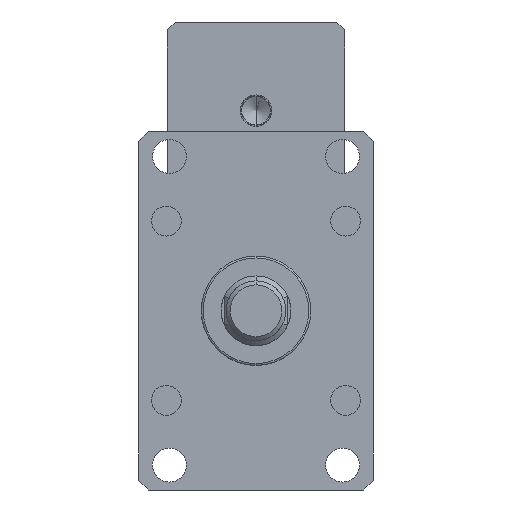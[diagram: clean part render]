
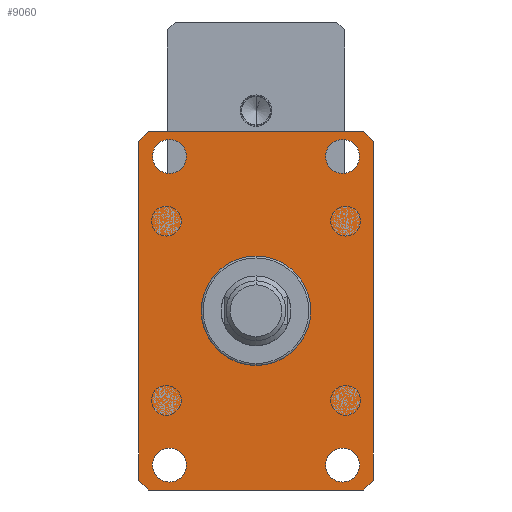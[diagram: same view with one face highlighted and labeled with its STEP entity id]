
A CAD part, front view. The second image highlights one B-rep face of the part: STEP entity #9060.
In plain terms, the highlighted planar face has unit normal (0, -1, 0).
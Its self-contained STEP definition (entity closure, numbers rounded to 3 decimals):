
#57 = CIRCLE ( 'NONE', #11998, 8.5 ) ;
#65 = ORIENTED_EDGE ( 'NONE', *, *, #6126, .T. ) ;
#323 = VERTEX_POINT ( 'NONE', #8324 ) ;
#350 = DIRECTION ( 'NONE',  ( 0., 0., -1. ) ) ;
#382 = CIRCLE ( 'NONE', #6644, 8.5 ) ;
#449 = VECTOR ( 'NONE', #11582, 1000. ) ;
#500 = CARTESIAN_POINT ( 'NONE',  ( 43.5, -55., -86. ) ) ;
#608 = VERTEX_POINT ( 'NONE', #700 ) ;
#700 = CARTESIAN_POINT ( 'NONE',  ( 43.5, -55., 69. ) ) ;
#716 = AXIS2_PLACEMENT_3D ( 'NONE', #8202, #2393, #9166 ) ;
#1003 = CIRCLE ( 'NONE', #1928, 8.5 ) ;
#1103 = ORIENTED_EDGE ( 'NONE', *, *, #5974, .F. ) ;
#1171 = VERTEX_POINT ( 'NONE', #12571 ) ;
#1281 = FACE_BOUND ( 'NONE', #2481, .T. ) ;
#1414 = VERTEX_POINT ( 'NONE', #11859 ) ;
#1847 = LINE ( 'NONE', #3904, #4104 ) ;
#1865 = CARTESIAN_POINT ( 'NONE',  ( 54., -55., 90. ) ) ;
#1928 = AXIS2_PLACEMENT_3D ( 'NONE', #3261, #10026, #4237 ) ;
#1968 = LINE ( 'NONE', #4491, #11973 ) ;
#2191 = CARTESIAN_POINT ( 'NONE',  ( -43.5, -55., -86. ) ) ;
#2393 = DIRECTION ( 'NONE',  ( 0., -1., 0. ) ) ;
#2481 = EDGE_LOOP ( 'NONE', ( #11285, #5204 ) ) ;
#2496 = DIRECTION ( 'NONE',  ( 0.707, 0., 0.707 ) ) ;
#2597 = VECTOR ( 'NONE', #7269, 1000. ) ;
#2674 = CARTESIAN_POINT ( 'NONE',  ( 43.5, -55., 77.5 ) ) ;
#2858 = CARTESIAN_POINT ( 'NONE',  ( -59., -55., -85. ) ) ;
#2907 = LINE ( 'NONE', #8239, #2597 ) ;
#2972 = VERTEX_POINT ( 'NONE', #11183 ) ;
#3036 = LINE ( 'NONE', #2858, #449 ) ;
#3121 = EDGE_LOOP ( 'NONE', ( #6163, #8565, #12577, #7317, #10690, #6490, #4847, #4715 ) ) ;
#3261 = CARTESIAN_POINT ( 'NONE',  ( 43.5, -55., -77.5 ) ) ;
#3273 = CARTESIAN_POINT ( 'NONE',  ( -54., -55., 90. ) ) ;
#3439 = CARTESIAN_POINT ( 'NONE',  ( 54., -55., -90. ) ) ;
#3572 = VERTEX_POINT ( 'NONE', #6185 ) ;
#3617 = AXIS2_PLACEMENT_3D ( 'NONE', #5728, #12474, #6698 ) ;
#3632 = DIRECTION ( 'NONE',  ( 0., 0., -1. ) ) ;
#3643 = CIRCLE ( 'NONE', #716, 8.5 ) ;
#3739 = VERTEX_POINT ( 'NONE', #2191 ) ;
#3769 = PLANE ( 'NONE',  #3617 ) ;
#3847 = FACE_OUTER_BOUND ( 'NONE', #3121, .T. ) ;
#3904 = CARTESIAN_POINT ( 'NONE',  ( -54., -55., 90. ) ) ;
#3978 = VERTEX_POINT ( 'NONE', #5614 ) ;
#4023 = ORIENTED_EDGE ( 'NONE', *, *, #6144, .T. ) ;
#4104 = VECTOR ( 'NONE', #8741, 1000. ) ;
#4237 = DIRECTION ( 'NONE',  ( 0., 0., 1. ) ) ;
#4439 = DIRECTION ( 'NONE',  ( 0., 1., 0. ) ) ;
#4491 = CARTESIAN_POINT ( 'NONE',  ( 59., -55., 85. ) ) ;
#4531 = DIRECTION ( 'NONE',  ( 0., 0., 1. ) ) ;
#4558 = CARTESIAN_POINT ( 'NONE',  ( 43.5, -55., -77.5 ) ) ;
#4600 = AXIS2_PLACEMENT_3D ( 'NONE', #10602, #4796, #11734 ) ;
#4604 = CARTESIAN_POINT ( 'NONE',  ( -43.5, -55., -77.5 ) ) ;
#4615 = AXIS2_PLACEMENT_3D ( 'NONE', #4604, #11390, #5595 ) ;
#4715 = ORIENTED_EDGE ( 'NONE', *, *, #7270, .T. ) ;
#4796 = DIRECTION ( 'NONE',  ( 0., -1., 0. ) ) ;
#4847 = ORIENTED_EDGE ( 'NONE', *, *, #7105, .T. ) ;
#4897 = EDGE_CURVE ( 'NONE', #8879, #2972, #1003, .T. ) ;
#5153 = VECTOR ( 'NONE', #2496, 1000. ) ;
#5204 = ORIENTED_EDGE ( 'NONE', *, *, #7427, .F. ) ;
#5494 = EDGE_CURVE ( 'NONE', #3739, #5698, #382, .T. ) ;
#5553 = DIRECTION ( 'NONE',  ( 0., 0., 1. ) ) ;
#5595 = DIRECTION ( 'NONE',  ( 0., 0., 1. ) ) ;
#5614 = CARTESIAN_POINT ( 'NONE',  ( -43.5, -55., 86. ) ) ;
#5622 = VECTOR ( 'NONE', #11082, 1000. ) ;
#5698 = VERTEX_POINT ( 'NONE', #11484 ) ;
#5728 = CARTESIAN_POINT ( 'NONE',  ( 59., -55., 90. ) ) ;
#5864 = VERTEX_POINT ( 'NONE', #7905 ) ;
#5963 = AXIS2_PLACEMENT_3D ( 'NONE', #2674, #9443, #3632 ) ;
#5974 = EDGE_CURVE ( 'NONE', #323, #3978, #6157, .T. ) ;
#5975 = ORIENTED_EDGE ( 'NONE', *, *, #4897, .T. ) ;
#6078 = LINE ( 'NONE', #10073, #9834 ) ;
#6126 = EDGE_CURVE ( 'NONE', #2972, #8879, #57, .T. ) ;
#6144 = EDGE_CURVE ( 'NONE', #5698, #3739, #9759, .T. ) ;
#6157 = CIRCLE ( 'NONE', #7473, 8.5 ) ;
#6163 = ORIENTED_EDGE ( 'NONE', *, *, #6313, .T. ) ;
#6183 = DIRECTION ( 'NONE',  ( 0., -1., 0. ) ) ;
#6185 = CARTESIAN_POINT ( 'NONE',  ( 43.5, -55., 86. ) ) ;
#6313 = EDGE_CURVE ( 'NONE', #9245, #8148, #1847, .T. ) ;
#6445 = FACE_BOUND ( 'NONE', #7933, .T. ) ;
#6460 = EDGE_CURVE ( 'NONE', #8148, #1171, #2907, .T. ) ;
#6490 = ORIENTED_EDGE ( 'NONE', *, *, #7026, .T. ) ;
#6549 = EDGE_CURVE ( 'NONE', #1171, #5864, #11986, .T. ) ;
#6554 = CARTESIAN_POINT ( 'NONE',  ( 59., -55., -85. ) ) ;
#6644 = AXIS2_PLACEMENT_3D ( 'NONE', #10238, #4439, #11219 ) ;
#6695 = EDGE_CURVE ( 'NONE', #5864, #8876, #3036, .T. ) ;
#6698 = DIRECTION ( 'NONE',  ( 0., 0., 1. ) ) ;
#6934 = EDGE_CURVE ( 'NONE', #8876, #8271, #6078, .T. ) ;
#7026 = EDGE_CURVE ( 'NONE', #8271, #7760, #7737, .T. ) ;
#7105 = EDGE_CURVE ( 'NONE', #7760, #1414, #1968, .T. ) ;
#7149 = VECTOR ( 'NONE', #9332, 1000. ) ;
#7269 = DIRECTION ( 'NONE',  ( -0.707, 0., -0.707 ) ) ;
#7270 = EDGE_CURVE ( 'NONE', #1414, #9245, #8184, .T. ) ;
#7277 = CIRCLE ( 'NONE', #5963, 8.5 ) ;
#7293 = CARTESIAN_POINT ( 'NONE',  ( 59., -55., -85. ) ) ;
#7317 = ORIENTED_EDGE ( 'NONE', *, *, #6695, .T. ) ;
#7427 = EDGE_CURVE ( 'NONE', #608, #3572, #7277, .T. ) ;
#7473 = AXIS2_PLACEMENT_3D ( 'NONE', #11968, #6183, #350 ) ;
#7737 = LINE ( 'NONE', #7293, #5153 ) ;
#7760 = VERTEX_POINT ( 'NONE', #6554 ) ;
#7905 = CARTESIAN_POINT ( 'NONE',  ( -59., -55., -85. ) ) ;
#7933 = EDGE_LOOP ( 'NONE', ( #4023, #9616 ) ) ;
#8148 = VERTEX_POINT ( 'NONE', #3273 ) ;
#8170 = CARTESIAN_POINT ( 'NONE',  ( 54., -55., 90. ) ) ;
#8184 = LINE ( 'NONE', #1865, #5622 ) ;
#8202 = CARTESIAN_POINT ( 'NONE',  ( 43.5, -55., 77.5 ) ) ;
#8239 = CARTESIAN_POINT ( 'NONE',  ( -59., -55., 85. ) ) ;
#8271 = VERTEX_POINT ( 'NONE', #3439 ) ;
#8324 = CARTESIAN_POINT ( 'NONE',  ( -43.5, -55., 69. ) ) ;
#8370 = CARTESIAN_POINT ( 'NONE',  ( -59., -55., 85. ) ) ;
#8565 = ORIENTED_EDGE ( 'NONE', *, *, #6460, .T. ) ;
#8715 = EDGE_LOOP ( 'NONE', ( #65, #5975 ) ) ;
#8741 = DIRECTION ( 'NONE',  ( -1., 0., 0. ) ) ;
#8876 = VERTEX_POINT ( 'NONE', #11140 ) ;
#8879 = VERTEX_POINT ( 'NONE', #500 ) ;
#8970 = CIRCLE ( 'NONE', #4600, 8.5 ) ;
#9060 = ADVANCED_FACE ( 'NONE', ( #11594, #11880, #6445, #3847, #1281 ), #3769, .F. ) ;
#9166 = DIRECTION ( 'NONE',  ( 0., 0., -1. ) ) ;
#9245 = VERTEX_POINT ( 'NONE', #8170 ) ;
#9332 = DIRECTION ( 'NONE',  ( 0., 0., -1. ) ) ;
#9443 = DIRECTION ( 'NONE',  ( 0., -1., 0. ) ) ;
#9616 = ORIENTED_EDGE ( 'NONE', *, *, #5494, .T. ) ;
#9759 = CIRCLE ( 'NONE', #4615, 8.5 ) ;
#9834 = VECTOR ( 'NONE', #11053, 1000. ) ;
#10010 = EDGE_CURVE ( 'NONE', #3978, #323, #8970, .T. ) ;
#10026 = DIRECTION ( 'NONE',  ( 0., 1., 0. ) ) ;
#10073 = CARTESIAN_POINT ( 'NONE',  ( -54., -55., -90. ) ) ;
#10238 = CARTESIAN_POINT ( 'NONE',  ( -43.5, -55., -77.5 ) ) ;
#10602 = CARTESIAN_POINT ( 'NONE',  ( -43.5, -55., 77.5 ) ) ;
#10607 = ORIENTED_EDGE ( 'NONE', *, *, #10010, .F. ) ;
#10690 = ORIENTED_EDGE ( 'NONE', *, *, #6934, .T. ) ;
#11053 = DIRECTION ( 'NONE',  ( 1., 0., 0. ) ) ;
#11082 = DIRECTION ( 'NONE',  ( -0.707, 0., 0.707 ) ) ;
#11140 = CARTESIAN_POINT ( 'NONE',  ( -54., -55., -90. ) ) ;
#11183 = CARTESIAN_POINT ( 'NONE',  ( 43.5, -55., -69. ) ) ;
#11219 = DIRECTION ( 'NONE',  ( 0., 0., 1. ) ) ;
#11255 = EDGE_CURVE ( 'NONE', #3572, #608, #3643, .T. ) ;
#11285 = ORIENTED_EDGE ( 'NONE', *, *, #11255, .F. ) ;
#11349 = DIRECTION ( 'NONE',  ( 0., 1., 0. ) ) ;
#11390 = DIRECTION ( 'NONE',  ( 0., 1., 0. ) ) ;
#11484 = CARTESIAN_POINT ( 'NONE',  ( -43.5, -55., -69. ) ) ;
#11582 = DIRECTION ( 'NONE',  ( 0.707, 0., -0.707 ) ) ;
#11594 = FACE_BOUND ( 'NONE', #12450, .T. ) ;
#11734 = DIRECTION ( 'NONE',  ( 0., 0., -1. ) ) ;
#11859 = CARTESIAN_POINT ( 'NONE',  ( 59., -55., 85. ) ) ;
#11880 = FACE_BOUND ( 'NONE', #8715, .T. ) ;
#11968 = CARTESIAN_POINT ( 'NONE',  ( -43.5, -55., 77.5 ) ) ;
#11973 = VECTOR ( 'NONE', #4531, 1000. ) ;
#11986 = LINE ( 'NONE', #8370, #7149 ) ;
#11998 = AXIS2_PLACEMENT_3D ( 'NONE', #4558, #11349, #5553 ) ;
#12450 = EDGE_LOOP ( 'NONE', ( #10607, #1103 ) ) ;
#12474 = DIRECTION ( 'NONE',  ( 0., 1., 0. ) ) ;
#12571 = CARTESIAN_POINT ( 'NONE',  ( -59., -55., 85. ) ) ;
#12577 = ORIENTED_EDGE ( 'NONE', *, *, #6549, .T. ) ;
